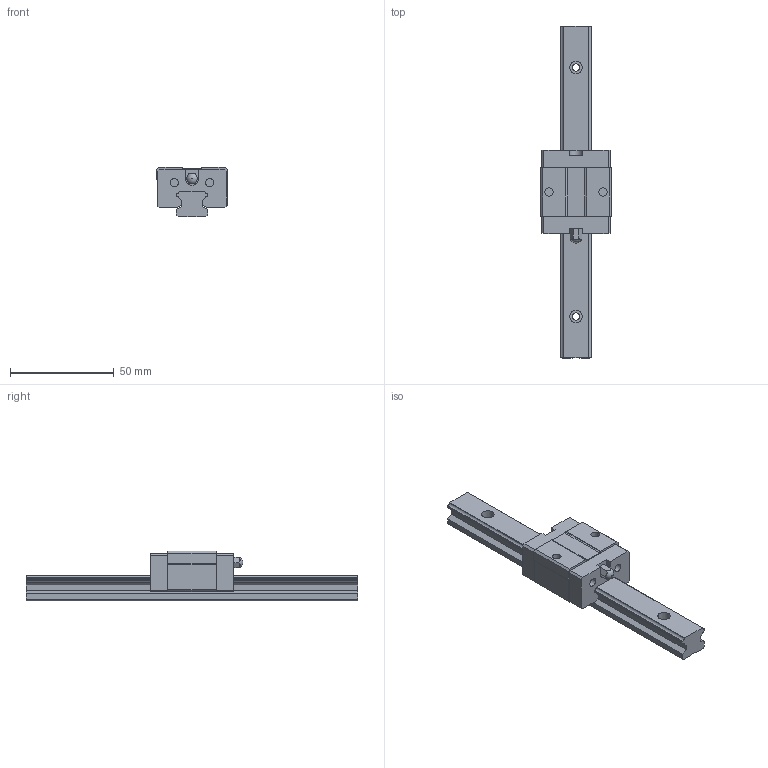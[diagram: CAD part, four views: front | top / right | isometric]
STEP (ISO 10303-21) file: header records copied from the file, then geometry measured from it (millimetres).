
FILE_DESCRIPTION(/* description */ (''),/* implementation_level */ '2;1');
FILE_NAME(/* name */ 'MSB15TS',/* time_stamp */ '2004-05-24T10:58:04+08:00',/* author */ (''),/* organization */ (''),/* preprocessor_version */ 'ST-DEVELOPER v8',/* originating_system */ '',/* authorisation */ '');
FILE_SCHEMA (('CONFIG_CONTROL_DESIGN'));
Length unit declared in the file: millimetre
Products named in the file (1): zirc170C0014
Bounding box: 34 x 160 x 24 mm (x, y, z)
Volume: 45329.7 mm3; surface area: 16939.8 mm2
Topology: 3 solids, 3 shells, 129 faces, 343 edges, 229 vertices
Faces by surface type: plane 101, cylinder 26, sphere 2
Full cylindrical faces by diameter (mm): 3.5 x3, 4 x8, 6 x3
Entity records: 3990 total; most frequent: CARTESIAN_POINT 682, DIRECTION 654, ORIENTED_EDGE 652, EDGE_CURVE 326, LINE 258, VECTOR 258, VERTEX_POINT 226, AXIS2_PLACEMENT_3D 198
